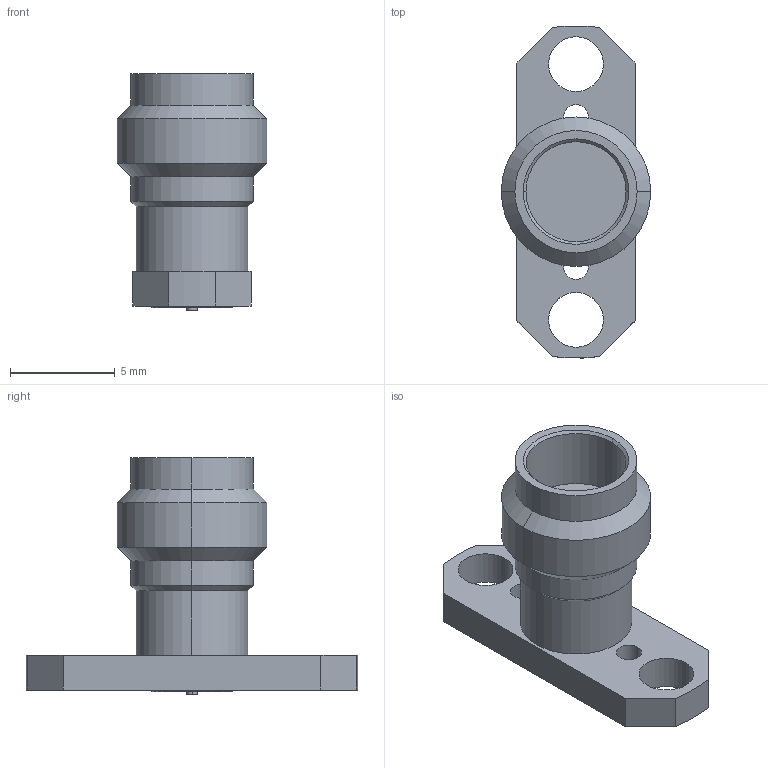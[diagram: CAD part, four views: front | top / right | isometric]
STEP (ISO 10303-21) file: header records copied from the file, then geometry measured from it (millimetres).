
FILE_DESCRIPTION (( 'STEP AP214' ), '1' );
FILE_NAME ('SF1621-60003.STEP', '2015-06-17T12:28:58', ( 'image' ), ( '' ), 'SwSTEP 2.0', 'SolidWorks 2014', '' );
FILE_SCHEMA (( 'AUTOMOTIVE_DESIGN' ));
Length unit declared in the file: inch
Products named in the file (1): SF1621-60003
Bounding box: 7.14 x 15.86 x 11.3 mm (x, y, z)
Volume: 337.1 mm3; surface area: 486.3 mm2
Topology: 1 solids, 1 shells, 47 faces, 106 edges, 66 vertices
Faces by surface type: cylinder 24, plane 13, cone 10
Entity records: 1924 total; most frequent: DIRECTION 256, CARTESIAN_POINT 220, ORIENTED_EDGE 212, EDGE_CURVE 106, AXIS2_PLACEMENT_3D 102, VERTEX_POINT 66, EDGE_LOOP 60, CIRCLE 54
